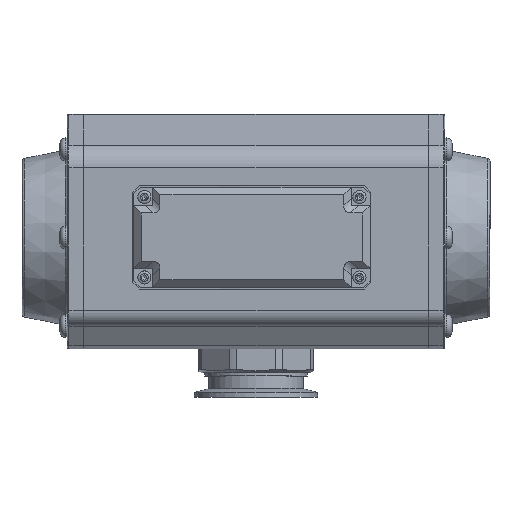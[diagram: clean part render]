
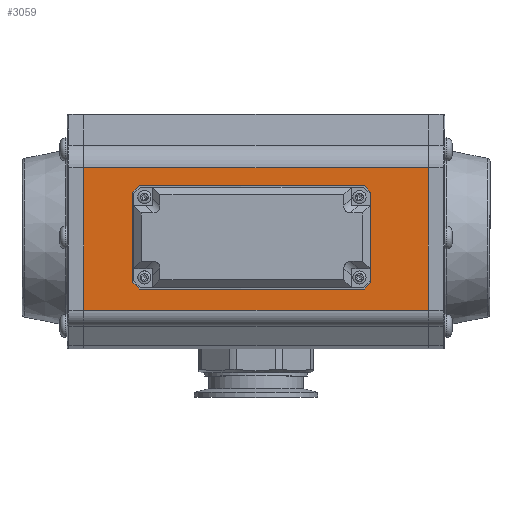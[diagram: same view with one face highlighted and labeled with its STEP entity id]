
A CAD part, top view. The second image highlights one B-rep face of the part: STEP entity #3059.
In plain terms, the highlighted planar face has unit normal (0, 0, 1) as drawn and (0, 1, 0) by its records, which use the part's own axes.
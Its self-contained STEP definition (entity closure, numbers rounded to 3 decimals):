
#3059 = ADVANCED_FACE( '', ( #6466, #6467, #6468, #6469, #6470, #6471 ), #6472, .T. );
#6466 = FACE_OUTER_BOUND( '', #11538, .T. );
#6467 = FACE_BOUND( '', #11539, .T. );
#6468 = FACE_BOUND( '', #11540, .T. );
#6469 = FACE_BOUND( '', #11541, .T. );
#6470 = FACE_BOUND( '', #11542, .T. );
#6471 = FACE_BOUND( '', #11543, .T. );
#6472 = PLANE( '', #11544 );
#11538 = EDGE_LOOP( '', ( #20373, #20374, #20375, #20376 ) );
#11539 = EDGE_LOOP( '', ( #20377 ) );
#11540 = EDGE_LOOP( '', ( #20378 ) );
#11541 = EDGE_LOOP( '', ( #20379 ) );
#11542 = EDGE_LOOP( '', ( #20380 ) );
#11543 = EDGE_LOOP( '', ( #20381 ) );
#11544 = AXIS2_PLACEMENT_3D( '', #20382, #20383, #20384 );
#20373 = ORIENTED_EDGE( '', *, *, #27664, .F. );
#20374 = ORIENTED_EDGE( '', *, *, #28514, .T. );
#20375 = ORIENTED_EDGE( '', *, *, #28542, .F. );
#20376 = ORIENTED_EDGE( '', *, *, #29848, .T. );
#20377 = ORIENTED_EDGE( '', *, *, #29849, .T. );
#20378 = ORIENTED_EDGE( '', *, *, #29109, .T. );
#20379 = ORIENTED_EDGE( '', *, *, #29152, .T. );
#20380 = ORIENTED_EDGE( '', *, *, #29850, .T. );
#20381 = ORIENTED_EDGE( '', *, *, #29851, .T. );
#20382 = CARTESIAN_POINT( '', ( -52., 70., 0. ) );
#20383 = DIRECTION( '', ( 0., 1., 0. ) );
#20384 = DIRECTION( '', ( 1., 0., 0. ) );
#27664 = EDGE_CURVE( '', #32327, #32322, #32329, .T. );
#28514 = EDGE_CURVE( '', #32327, #33761, #33763, .T. );
#28542 = EDGE_CURVE( '', #33809, #33761, #33811, .T. );
#29109 = EDGE_CURVE( '', #34696, #34696, #34697, .T. );
#29152 = EDGE_CURVE( '', #34756, #34756, #34757, .T. );
#29848 = EDGE_CURVE( '', #33809, #32322, #35776, .T. );
#29849 = EDGE_CURVE( '', #35777, #35777, #35778, .T. );
#29850 = EDGE_CURVE( '', #35779, #35779, #35780, .T. );
#29851 = EDGE_CURVE( '', #35781, #35781, #35782, .T. );
#32322 = VERTEX_POINT( '', #39214 );
#32327 = VERTEX_POINT( '', #39220 );
#32329 = LINE( '', #39222, #39223 );
#33761 = VERTEX_POINT( '', #41913 );
#33763 = LINE( '', #41915, #41916 );
#33809 = VERTEX_POINT( '', #41974 );
#33811 = LINE( '', #41976, #41977 );
#34696 = VERTEX_POINT( '', #43648 );
#34697 = CIRCLE( '', #43649, 2.067 );
#34756 = VERTEX_POINT( '', #43753 );
#34757 = CIRCLE( '', #43754, 2.067 );
#35776 = LINE( '', #45799, #45800 );
#35777 = VERTEX_POINT( '', #45801 );
#35778 = CIRCLE( '', #45802, 2.067 );
#35779 = VERTEX_POINT( '', #45803 );
#35780 = CIRCLE( '', #45804, 2.067 );
#35781 = VERTEX_POINT( '', #45805 );
#35782 = CIRCLE( '', #45806, 17.25 );
#39214 = CARTESIAN_POINT( '', ( 42.471, 70., 210. ) );
#39220 = CARTESIAN_POINT( '', ( 42.471, 70., 0. ) );
#39222 = CARTESIAN_POINT( '', ( 42.471, 70., 0. ) );
#39223 = VECTOR( '', #50416, 1000. );
#41913 = CARTESIAN_POINT( '', ( -44.276, 70., 0. ) );
#41915 = CARTESIAN_POINT( '', ( 42.471, 70., 0. ) );
#41916 = VECTOR( '', #51317, 1000. );
#41974 = CARTESIAN_POINT( '', ( -44.276, 70., 210. ) );
#41976 = CARTESIAN_POINT( '', ( -44.276, 70., 210. ) );
#41977 = VECTOR( '', #51363, 1000. );
#43648 = CARTESIAN_POINT( '', ( -12.933, 70., 65. ) );
#43649 = AXIS2_PLACEMENT_3D( '', #51866, #51867, #51868 );
#43753 = CARTESIAN_POINT( '', ( 17.067, 70., 65. ) );
#43754 = AXIS2_PLACEMENT_3D( '', #51900, #51901, #51902 );
#45799 = CARTESIAN_POINT( '', ( -44.276, 70., 210. ) );
#45800 = VECTOR( '', #52530, 1000. );
#45801 = CARTESIAN_POINT( '', ( 17.067, 70., 145. ) );
#45802 = AXIS2_PLACEMENT_3D( '', #52531, #52532, #52533 );
#45803 = CARTESIAN_POINT( '', ( -12.933, 70., 145. ) );
#45804 = AXIS2_PLACEMENT_3D( '', #52534, #52535, #52536 );
#45805 = CARTESIAN_POINT( '', ( -17.25, 70., 105. ) );
#45806 = AXIS2_PLACEMENT_3D( '', #52537, #52538, #52539 );
#50416 = DIRECTION( '', ( 0., 0., 1. ) );
#51317 = DIRECTION( '', ( -1., 0., 0. ) );
#51363 = DIRECTION( '', ( 0., 0., -1. ) );
#51866 = CARTESIAN_POINT( '', ( -15., 70., 65. ) );
#51867 = DIRECTION( '', ( 0., -1., 0. ) );
#51868 = DIRECTION( '', ( 1., 0., 0. ) );
#51900 = CARTESIAN_POINT( '', ( 15., 70., 65. ) );
#51901 = DIRECTION( '', ( 0., -1., 0. ) );
#51902 = DIRECTION( '', ( 1., 0., 0. ) );
#52530 = DIRECTION( '', ( 1., 0., 0. ) );
#52531 = CARTESIAN_POINT( '', ( 15., 70., 145. ) );
#52532 = DIRECTION( '', ( 0., -1., 0. ) );
#52533 = DIRECTION( '', ( 1., 0., 0. ) );
#52534 = CARTESIAN_POINT( '', ( -15., 70., 145. ) );
#52535 = DIRECTION( '', ( 0., -1., 0. ) );
#52536 = DIRECTION( '', ( 1., 0., 0. ) );
#52537 = CARTESIAN_POINT( '', ( 0., 70., 105. ) );
#52538 = DIRECTION( '', ( 0., -1., 0. ) );
#52539 = DIRECTION( '', ( -1., 0., 0. ) );
